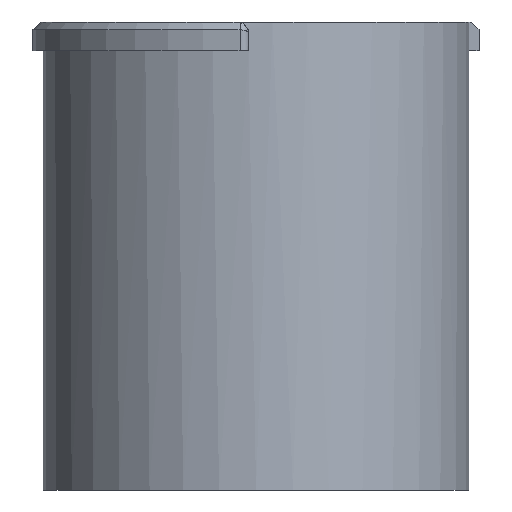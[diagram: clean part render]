
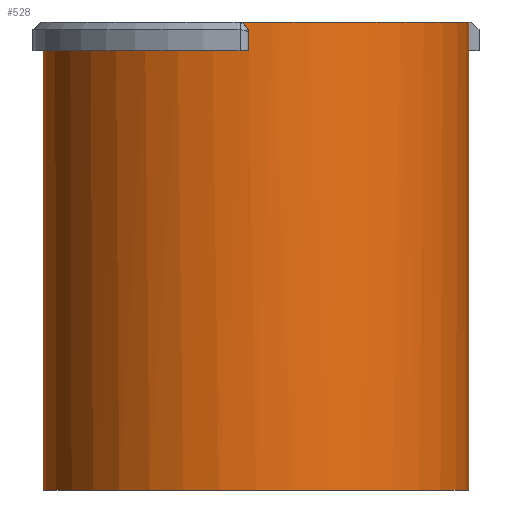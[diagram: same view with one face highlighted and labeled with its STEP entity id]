
A CAD part, front view. The second image highlights one B-rep face of the part: STEP entity #528.
In plain terms, the highlighted cylindrical face has radius 24.25 mm (diameter 48.5 mm), a full revolution.
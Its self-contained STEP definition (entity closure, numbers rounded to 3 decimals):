
#44=B_SPLINE_CURVE_WITH_KNOTS('',3,(#798,#799,#800,#801,#802,#803,#804,
#805,#806,#807),.UNSPECIFIED.,.F.,.F.,(4,2,2,2,4),(-0.196,-0.147,
-0.098,-0.049,0.),.UNSPECIFIED.);
#51=B_SPLINE_CURVE_WITH_KNOTS('',3,(#941,#942,#943,#944,#945,#946,#947,
#948,#949,#950),.UNSPECIFIED.,.F.,.F.,(4,2,2,2,4),(-0.196,-0.147,
-0.098,-0.049,0.),.UNSPECIFIED.);
#80=FACE_OUTER_BOUND('',#122,.T.);
#122=EDGE_LOOP('',(#461,#462,#463,#464,#465,#466,#467,#468,#469,#470,#471,
#472,#473));
#145=LINE('',#995,#176);
#148=LINE('',#1001,#179);
#155=LINE('',#1101,#186);
#156=LINE('',#1102,#187);
#157=LINE('',#1103,#188);
#176=VECTOR('',#687,10.);
#179=VECTOR('',#692,10.);
#186=VECTOR('',#731,24.25);
#187=VECTOR('',#732,10.);
#188=VECTOR('',#733,10.);
#206=CIRCLE('',#573,24.25);
#208=CIRCLE('',#575,24.25);
#212=CIRCLE('',#584,24.25);
#213=CIRCLE('',#587,24.25);
#217=CIRCLE('',#596,24.25);
#235=VERTEX_POINT('',#795);
#236=VERTEX_POINT('',#797);
#243=VERTEX_POINT('',#921);
#246=VERTEX_POINT('',#927);
#247=VERTEX_POINT('',#929);
#250=VERTEX_POINT('',#939);
#256=VERTEX_POINT('',#993);
#258=VERTEX_POINT('',#999);
#261=VERTEX_POINT('',#1007);
#262=VERTEX_POINT('',#1013);
#266=VERTEX_POINT('',#1099);
#291=EDGE_CURVE('',#235,#236,#44,.F.);
#301=EDGE_CURVE('',#236,#243,#206,.T.);
#305=EDGE_CURVE('',#246,#247,#208,.T.);
#309=EDGE_CURVE('',#250,#246,#51,.F.);
#318=EDGE_CURVE('',#256,#235,#145,.T.);
#321=EDGE_CURVE('',#258,#250,#148,.T.);
#325=EDGE_CURVE('',#261,#256,#212,.T.);
#328=EDGE_CURVE('',#262,#258,#213,.T.);
#336=EDGE_CURVE('',#266,#266,#217,.T.);
#337=EDGE_CURVE('',#266,#262,#155,.T.);
#338=EDGE_CURVE('',#262,#243,#156,.T.);
#339=EDGE_CURVE('',#261,#247,#157,.T.);
#461=ORIENTED_EDGE('',*,*,#336,.F.);
#462=ORIENTED_EDGE('',*,*,#337,.T.);
#463=ORIENTED_EDGE('',*,*,#338,.T.);
#464=ORIENTED_EDGE('',*,*,#301,.F.);
#465=ORIENTED_EDGE('',*,*,#291,.F.);
#466=ORIENTED_EDGE('',*,*,#318,.F.);
#467=ORIENTED_EDGE('',*,*,#325,.F.);
#468=ORIENTED_EDGE('',*,*,#339,.T.);
#469=ORIENTED_EDGE('',*,*,#305,.F.);
#470=ORIENTED_EDGE('',*,*,#309,.F.);
#471=ORIENTED_EDGE('',*,*,#321,.F.);
#472=ORIENTED_EDGE('',*,*,#328,.F.);
#473=ORIENTED_EDGE('',*,*,#337,.F.);
#503=CYLINDRICAL_SURFACE('',#595,24.25);
#528=ADVANCED_FACE('',(#80),#503,.T.);
#573=AXIS2_PLACEMENT_3D('',#922,#666,#667);
#575=AXIS2_PLACEMENT_3D('',#930,#672,#673);
#584=AXIS2_PLACEMENT_3D('',#1009,#700,#701);
#587=AXIS2_PLACEMENT_3D('',#1016,#708,#709);
#595=AXIS2_PLACEMENT_3D('',#1098,#727,#728);
#596=AXIS2_PLACEMENT_3D('',#1100,#729,#730);
#666=DIRECTION('center_axis',(0.,0.,1.));
#667=DIRECTION('ref_axis',(1.,0.,0.));
#672=DIRECTION('center_axis',(0.,0.,1.));
#673=DIRECTION('ref_axis',(1.,0.,0.));
#687=DIRECTION('',(0.,0.,1.));
#692=DIRECTION('',(0.,0.,1.));
#700=DIRECTION('center_axis',(0.,0.,1.));
#701=DIRECTION('ref_axis',(1.,0.,0.));
#708=DIRECTION('center_axis',(0.,0.,1.));
#709=DIRECTION('ref_axis',(1.,0.,0.));
#727=DIRECTION('center_axis',(0.,0.,-1.));
#728=DIRECTION('ref_axis',(1.,0.,0.));
#729=DIRECTION('center_axis',(0.,0.,-1.));
#730=DIRECTION('ref_axis',(1.,0.,0.));
#731=DIRECTION('',(0.,0.,1.));
#732=DIRECTION('',(0.,0.,1.));
#733=DIRECTION('',(0.,0.,1.));
#795=CARTESIAN_POINT('',(0.842,24.235,3.1));
#797=CARTESIAN_POINT('',(2.139,24.155,4.4));
#798=CARTESIAN_POINT('Ctrl Pts',(2.139,24.155,4.4));
#799=CARTESIAN_POINT('Ctrl Pts',(1.977,24.17,4.4));
#800=CARTESIAN_POINT('Ctrl Pts',(1.803,24.183,4.367));
#801=CARTESIAN_POINT('Ctrl Pts',(1.483,24.205,4.235));
#802=CARTESIAN_POINT('Ctrl Pts',(1.338,24.213,4.135));
#803=CARTESIAN_POINT('Ctrl Pts',(1.107,24.225,3.904));
#804=CARTESIAN_POINT('Ctrl Pts',(1.007,24.229,3.758));
#805=CARTESIAN_POINT('Ctrl Pts',(0.874,24.234,3.437));
#806=CARTESIAN_POINT('Ctrl Pts',(0.842,24.235,3.263));
#807=CARTESIAN_POINT('Ctrl Pts',(0.842,24.235,3.1));
#921=CARTESIAN_POINT('',(-24.25,0.,4.4));
#922=CARTESIAN_POINT('Origin',(0.,0.,
4.4));
#927=CARTESIAN_POINT('',(-2.139,-24.155,4.4));
#929=CARTESIAN_POINT('',(24.25,0.,4.4));
#930=CARTESIAN_POINT('Origin',(0.,0.,
4.4));
#939=CARTESIAN_POINT('',(-0.842,-24.235,3.1));
#941=CARTESIAN_POINT('Ctrl Pts',(-2.139,-24.155,4.4));
#942=CARTESIAN_POINT('Ctrl Pts',(-1.977,-24.17,4.4));
#943=CARTESIAN_POINT('Ctrl Pts',(-1.803,-24.183,4.367));
#944=CARTESIAN_POINT('Ctrl Pts',(-1.483,-24.205,4.235));
#945=CARTESIAN_POINT('Ctrl Pts',(-1.338,-24.213,4.135));
#946=CARTESIAN_POINT('Ctrl Pts',(-1.107,-24.225,3.904));
#947=CARTESIAN_POINT('Ctrl Pts',(-1.007,-24.229,3.758));
#948=CARTESIAN_POINT('Ctrl Pts',(-0.874,-24.234,3.437));
#949=CARTESIAN_POINT('Ctrl Pts',(-0.842,-24.235,3.263));
#950=CARTESIAN_POINT('Ctrl Pts',(-0.842,-24.235,3.1));
#993=CARTESIAN_POINT('',(0.842,24.235,1.1));
#995=CARTESIAN_POINT('',(0.842,24.235,1.1));
#999=CARTESIAN_POINT('',(-0.842,-24.235,1.1));
#1001=CARTESIAN_POINT('',(-0.842,-24.235,1.1));
#1007=CARTESIAN_POINT('',(24.25,0.,1.1));
#1009=CARTESIAN_POINT('Origin',(0.,0.,
1.1));
#1013=CARTESIAN_POINT('',(-24.25,0.,1.1));
#1016=CARTESIAN_POINT('Origin',(0.,0.,
1.1));
#1098=CARTESIAN_POINT('Origin',(0.,0.,
1.1));
#1099=CARTESIAN_POINT('',(-24.25,0.,-48.9));
#1100=CARTESIAN_POINT('Origin',(0.,0.,
-48.9));
#1101=CARTESIAN_POINT('',(-24.25,0.,1.1));
#1102=CARTESIAN_POINT('',(-24.25,0.,1.1));
#1103=CARTESIAN_POINT('',(24.25,0.,1.1));
